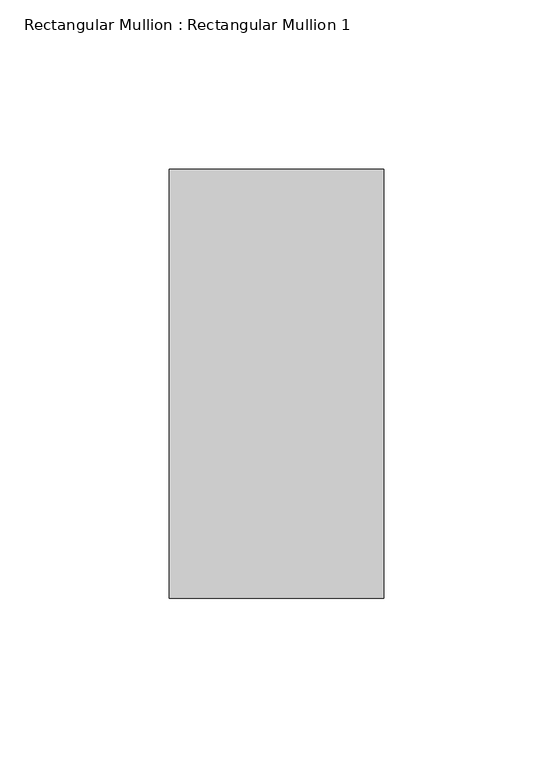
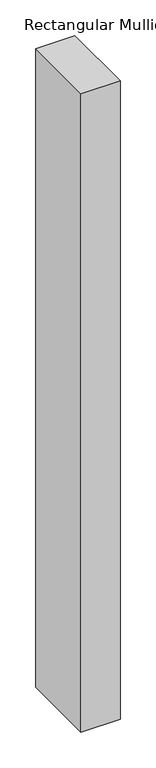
"""IFC4 building model written with IfcOpenShell, lengths in millimetres: member geometry, Rectangular Mullion : Rectangular Mullion 1."""

from ifc_helpers import new_model, si_unit, frame, origin, place, context, project, spatial, polyline, outline, extrude, source, transform, mapped, element, save


def rectangular_mullion_rectangular_mullion_1_216b7e31(model_context):
    return source(origin(), model_context, "Body", "SweptSolid", [
        extrude(outline(polyline([(31.75, 63.5), (31.75, -63.5), (-31.75, -63.5), (-31.75, 63.5), (31.75, 63.5)])), frame((0.0, 0.0, -1092.8202178), z_axis=(0.0, 0.0, 1.0), x_axis=(1.0, 0.0, 0.0)), (0.0, 0.0, 1.0), 1092.8202178),
    ])


if __name__ == "__main__":
    model = new_model("IFC4")
    model_context = context("Model", 3, world=origin())
    ifc_project = project(units=[si_unit("LENGTHUNIT", "METRE", prefix="MILLI")], contexts=[model_context])
    site = spatial("IfcSite", under=ifc_project)
    building = spatial("IfcBuilding", under=site)
    placement = place(None, origin())
    rectangular_mullion_rectangular_mullion_1_shape = rectangular_mullion_rectangular_mullion_1_216b7e31(model_context)
    element("IfcMember", 1, ObjectType="Rectangular Mullion : Rectangular Mullion 1", at=placement, inside=building, context=model_context, shape_type="MappedRepresentation", body=[
        mapped(rectangular_mullion_rectangular_mullion_1_shape, transform((0.0, 0.0, 0.0), x_axis=(1.0, 0.0, 0.0), y_axis=(0.0, 1.0, 0.0), z_axis=(0.0, 0.0, 1.0))),
    ])
    save(model, "model.ifc")
